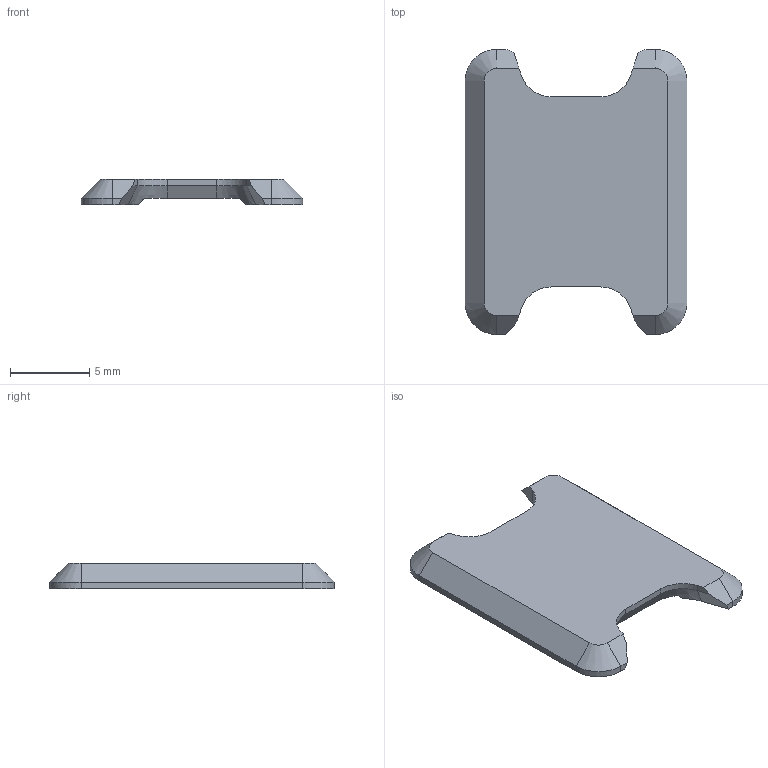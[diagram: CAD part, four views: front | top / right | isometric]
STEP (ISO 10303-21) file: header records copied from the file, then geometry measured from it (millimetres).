
FILE_DESCRIPTION(/* description */ (''),/* implementation_level */ '2;1');
FILE_NAME(/* name */ 'Clip for cables hex lamp v1.step',/* time_stamp */ '2025-10-01T21:53:05+09:00',/* author */ (''),/* organization */ (''),/* preprocessor_version */ 'ST-DEVELOPER v20.1',/* originating_system */ 'Autodesk Translation Framework v14.17.0.0',/* authorisation */ '');
FILE_SCHEMA (('AUTOMOTIVE_DESIGN { 1 0 10303 214 3 1 1 }'));
Length unit declared in the file: millimetre
Products named in the file (1): Clip for cables hex lamp
Bounding box: 14 x 18 x 1.6 mm (x, y, z)
Volume: 265.6 mm3; surface area: 478.9 mm2
Topology: 1 solids, 1 shells, 46 faces, 116 edges, 72 vertices
Faces by surface type: plane 30, cone 8, cylinder 8
Entity records: 1395 total; most frequent: DIRECTION 240, CARTESIAN_POINT 239, ORIENTED_EDGE 232, EDGE_CURVE 116, LINE 82, VECTOR 82, AXIS2_PLACEMENT_3D 79, VERTEX_POINT 72
